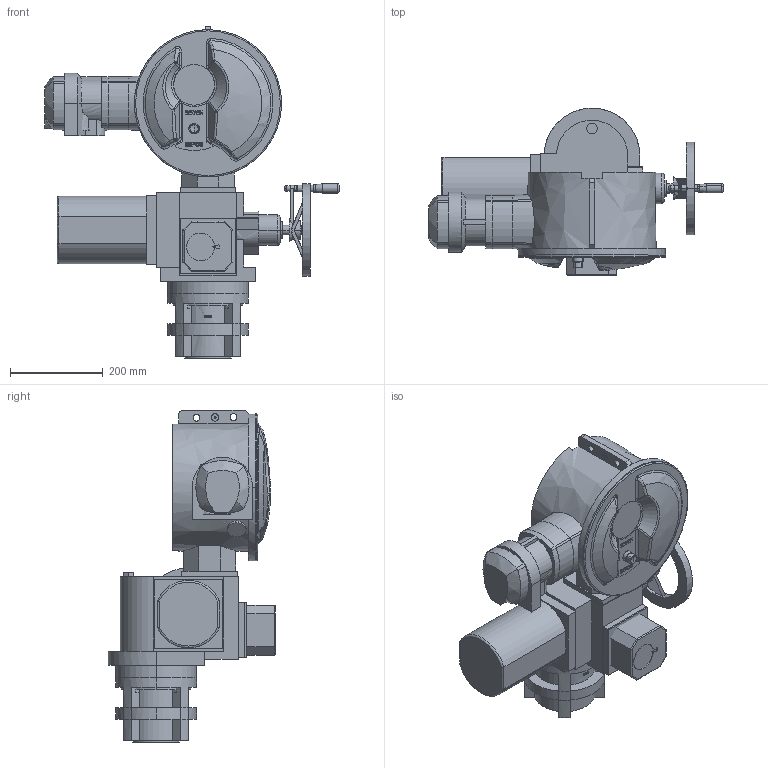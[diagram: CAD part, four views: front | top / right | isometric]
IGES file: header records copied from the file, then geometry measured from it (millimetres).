
Start section: Elysium IGES Interface
Global section: file name: H:\cad\3D-fuer-Kunden\2017_09\2SA7.4_Output_Speed_D_E.igs; native system: Creo Elements/Direct Modeling 18.1B  29-Sep-2012; preprocessor: Creo Element/Direct IGES_3D V2.2; author: Unknown; organization: Unknown; date: 20170922.144901; units: millimetre
Bounding box: 637 x 362.5 x 717.6 mm (x, y, z)
Volume: 35595771.9 mm3; surface area: 1546916.4 mm2
Topology: 12 solids, 12 shells, 1642 faces, 4345 edges, 2837 vertices
Faces by surface type: bspline 1642
